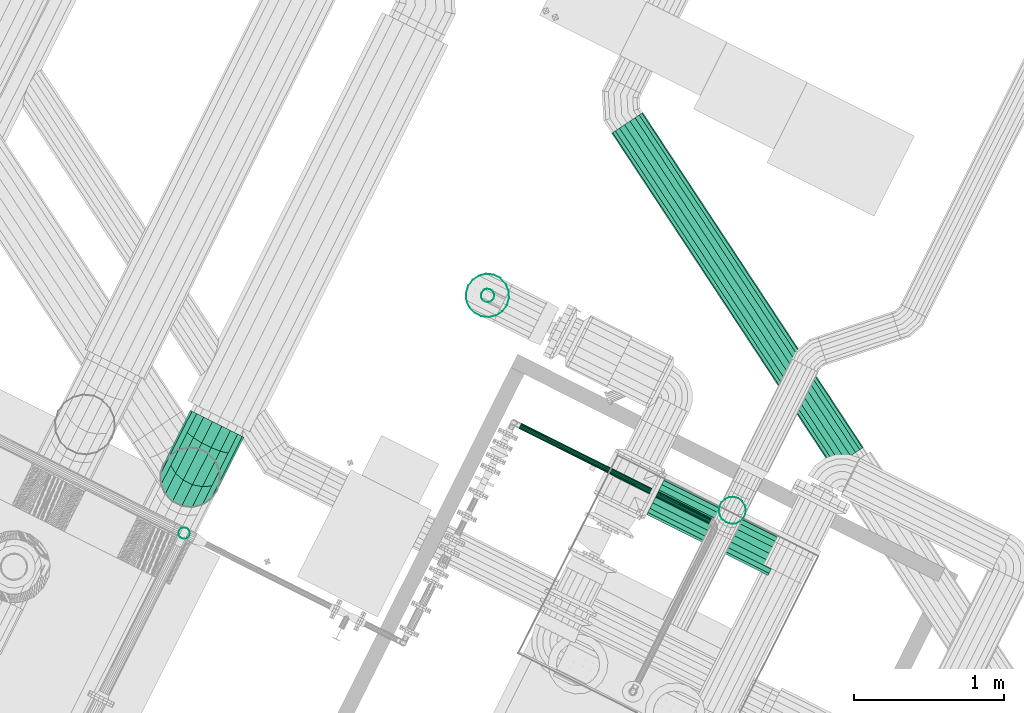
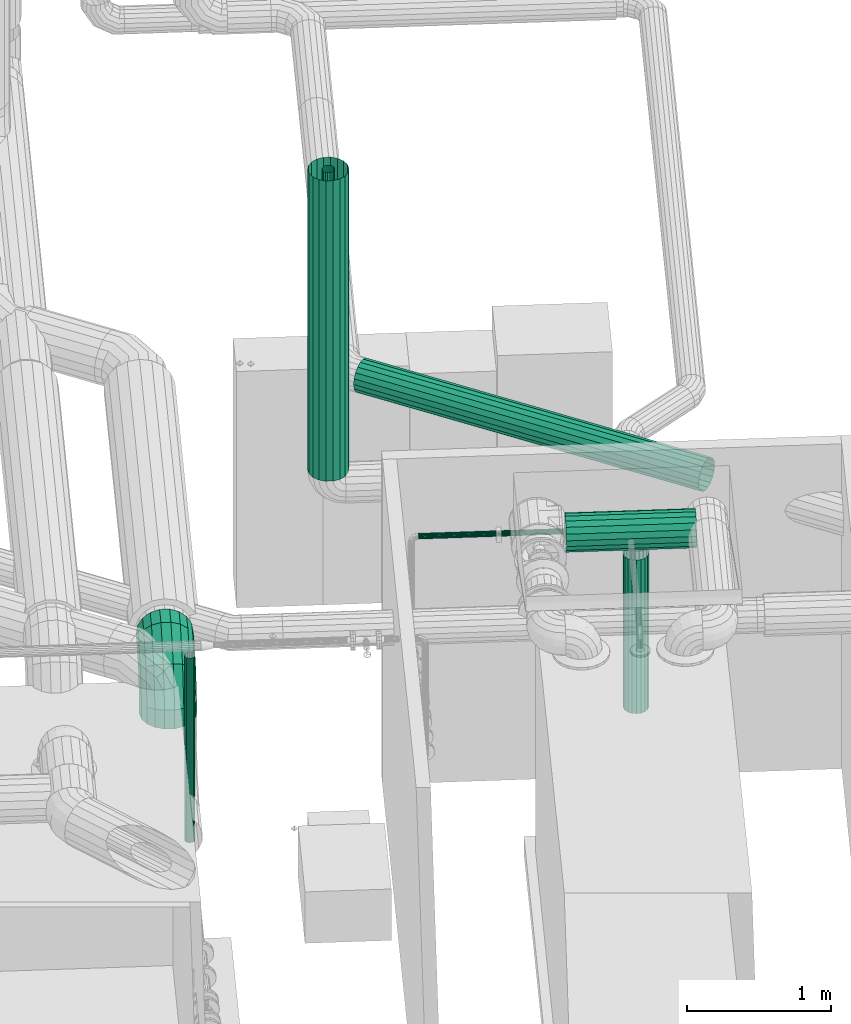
# One storey, part 23 of 206: 6 flow segments, 1 flow fitting.
"""IFC2X3 building model written with IfcOpenShell, lengths in metres."""

import ifcopenshell
import ifcopenshell.guid

model = None  # the IFC model being written
_history = None  # IfcOwnerHistory: only IFC2X3 demands one
_inside = {}  # id of a spatial element -> (the spatial element, [elements in it])
_under = {}  # id of a project, library or spatial element -> (it, [spatial elements below it])
_declared = {}  # id of a project -> (the project, [libraries it declares])
_typed = {}  # id of a type object -> (the type object, [elements of that type])
_made_of = {}  # id of a material, layer set ... -> (it, [elements and type objects made of it])


def new_model(schema):
    """Start an empty IFC model of exactly this schema.

    Asked for "IFC4X3", IfcOpenShell would pick the latest addendum, in which some entities
    have other attributes; the version numbers below select the first issue.
    IFC2X3 requires an IfcOwnerHistory on every rooted entity: one is made here for all.
    """
    global model, _history
    if schema == "IFC4X3":
        model = ifcopenshell.file(schema_version=(4, 3, 0, 0))
    else:
        model = ifcopenshell.file(schema=schema)
    _inside.clear()
    _under.clear()
    _declared.clear()
    _typed.clear()
    _made_of.clear()
    _history = None
    if model.schema == "IFC2X3":
        org = make("IfcOrganization", Name="unknown")
        user = make(
            "IfcPersonAndOrganization",
            ThePerson=make("IfcPerson", FamilyName="unknown"),
            TheOrganization=org,
        )
        app = make(
            "IfcApplication",
            ApplicationDeveloper=org,
            Version="unknown",
            ApplicationFullName="unknown",
            ApplicationIdentifier="unknown",
        )
        _history = make(
            "IfcOwnerHistory",
            OwningUser=user,
            OwningApplication=app,
            ChangeAction="ADDED",
            CreationDate=0,
        )
    return model


def make(cls, **values):
    """One entity of the class cls with the attributes given. An attribute that is None is left unset."""
    return model.create_entity(
        cls, **{name: value for name, value in values.items() if value is not None}
    )


def rooted(cls, **values):
    """An entity with a GlobalId (a new one), such as an element, a storey or a relation."""
    return make(cls, GlobalId=ifcopenshell.guid.new(), OwnerHistory=_history, **values)


def si_unit(unit_type, name, prefix=None):
    """IfcSIUnit, for example si_unit("LENGTHUNIT", "METRE", prefix="MILLI")."""
    return make("IfcSIUnit", UnitType=unit_type, Prefix=prefix, Name=name)


def derived_unit(unit_type, elements):
    """IfcDerivedUnit: a product of units, each with its exponent."""
    return make(
        "IfcDerivedUnit",
        Elements=[
            make("IfcDerivedUnitElement", Unit=unit, Exponent=power)
            for unit, power in elements
        ],
        UnitType=unit_type,
    )


def assignment(units):
    """IfcUnitAssignment: the units of a project."""
    return None if units is None else make("IfcUnitAssignment", Units=units)


def point(xyz):
    """IfcCartesianPoint."""
    return None if xyz is None else make("IfcCartesianPoint", Coordinates=xyz)


def direction(xyz):
    """IfcDirection."""
    return None if xyz is None else make("IfcDirection", DirectionRatios=xyz)


def frame(location, z_axis=None, x_axis=None):
    """IfcAxis2Placement3D, a coordinate frame: its origin and axes. An axis left out is left unset."""
    return make(
        "IfcAxis2Placement3D",
        Location=point(location),
        Axis=direction(z_axis),
        RefDirection=direction(x_axis),
    )


def origin():
    """The frame at (0, 0, 0) with its axes left unset."""
    return frame((0.0, 0.0, 0.0))


def place(relative_to, where):
    """IfcLocalPlacement: puts the frame where relative to a parent placement (None: the world)."""
    return make(
        "IfcLocalPlacement", PlacementRelTo=relative_to, RelativePlacement=where
    )


def context(
    kind, dimensions, precision=None, world=None, true_north=None, identifier=None
):
    """IfcGeometricRepresentationContext, for example the 3D "Model" context."""
    return make(
        "IfcGeometricRepresentationContext",
        ContextIdentifier=identifier,
        ContextType=kind,
        CoordinateSpaceDimension=dimensions,
        Precision=precision,
        WorldCoordinateSystem=world,
        TrueNorth=true_north,
    )


def subcontext(parent, identifier, kind, view, scale=None):
    """IfcGeometricRepresentationSubContext, for example "Body" below "Model"."""
    return make(
        "IfcGeometricRepresentationSubContext",
        ContextIdentifier=identifier,
        ContextType=kind,
        ParentContext=parent,
        TargetScale=scale,
        TargetView=view,
    )


def project(units=None, contexts=None):
    """IfcProject with its units and contexts."""
    return rooted(
        "IfcProject",
        Name="project",
        RepresentationContexts=contexts,
        UnitsInContext=assignment(units),
    )


def spatial(cls, under=None, at=None, **own):
    """A site, building, storey or space (cls), placed at a placement, below another one or the project."""
    s = rooted(cls, ObjectPlacement=at, **own)
    if under is not None:
        _under.setdefault(under.id(), (under, []))[1].append(s)
    return s


def faces_of(points, faces, orient=None, outer=None):
    """IfcFace entities. A face is a list of loops; a loop is a list of indices into points, from 0.

    orient and outer hold one flag for each loop. By default every Orientation is true, the
    first loop of a face is its IfcFaceOuterBound and the others are IfcFaceBound.
    """
    made = []
    for i, loops in enumerate(faces):
        bounds = []
        for j, loop in enumerate(loops):
            is_outer = j == 0 if outer is None else outer[i][j]
            bounds.append(
                make(
                    "IfcFaceOuterBound" if is_outer else "IfcFaceBound",
                    Bound=make("IfcPolyLoop", Polygon=[points[k] for k in loop]),
                    Orientation=True if orient is None else orient[i][j],
                )
            )
        made.append(make("IfcFace", Bounds=bounds))
    return made


def face_set(faces, orient=None, outer=None):
    """The faces of one IfcConnectedFaceSet. surface_model builds it on its shared points."""
    return ("IfcConnectedFaceSet", faces, orient, outer)


def surface_model(cls, points, shells):
    """IfcFaceBasedSurfaceModel or IfcShellBasedSurfaceModel (cls): surfaces that need not close."""
    shared = [point(p) for p in points]
    made = [make(c, CfsFaces=faces_of(shared, fs, o, b)) for c, fs, o, b in shells]
    if cls == "IfcFaceBasedSurfaceModel":
        return make(cls, FbsmFaces=made)
    return make(cls, SbsmBoundary=made)


def shape(context_of_items, identifier, shape_type, items):
    """IfcShapeRepresentation: the items that make up one representation, for example the "Body"."""
    return make(
        "IfcShapeRepresentation",
        ContextOfItems=context_of_items,
        RepresentationIdentifier=identifier,
        RepresentationType=shape_type,
        Items=items,
    )


def source(mapping_origin, context_of_items, identifier, shape_type, items):
    """IfcRepresentationMap: a shape defined once, which mapped items show again and again."""
    return make(
        "IfcRepresentationMap",
        MappingOrigin=mapping_origin,
        MappedRepresentation=shape(context_of_items, identifier, shape_type, items),
    )


def transform(
    local_origin,
    x_axis=None,
    y_axis=None,
    z_axis=None,
    scale=None,
    scale2=None,
    scale3=None,
    uniform=True,
):
    """IfcCartesianTransformationOperator3D, or its non-uniform kind. x_axis, y_axis, z_axis: its Axis1, 2, 3."""
    if uniform:
        return make(
            "IfcCartesianTransformationOperator3D",
            Axis1=direction(x_axis),
            Axis2=direction(y_axis),
            LocalOrigin=point(local_origin),
            Scale=scale,
            Axis3=direction(z_axis),
        )
    return make(
        "IfcCartesianTransformationOperator3DnonUniform",
        Axis1=direction(x_axis),
        Axis2=direction(y_axis),
        LocalOrigin=point(local_origin),
        Scale=scale,
        Axis3=direction(z_axis),
        Scale2=scale2,
        Scale3=scale3,
    )


def mapped(mapping_source, mapping_target):
    """IfcMappedItem: shows the shape of a source again, moved by a transform."""
    return make(
        "IfcMappedItem", MappingSource=mapping_source, MappingTarget=mapping_target
    )


def material(Name=None, Category=None):
    """IfcMaterial."""
    return make("IfcMaterial", Name=Name, Category=Category)


def made_of(thing, what):
    """Note that an element or type object is made of a material, layer set ...; save() writes the relation."""
    if what is not None:
        _made_of.setdefault(what.id(), (what, []))[1].append(thing)
    return thing


def type_object(cls, material=None, **own):
    """A type object (cls), such as IfcWallType, which elements share."""
    return made_of(rooted(cls, **own), material)


def type_shapes(of_type, sources):
    """Give a type object the sources (RepresentationMaps) that its elements show as mapped items."""
    of_type.RepresentationMaps = sources


def element(
    cls,
    number,
    at=None,
    inside=None,
    cuts=None,
    type_object=None,
    material=None,
    context=None,
    identifier="Body",
    shape_type=None,
    held_by="IfcProductDefinitionShape",
    body=None,
    shapes=None,
    **own,
):
    """One element of the class cls, such as IfcWall. Its Tag is "e" and its number.

    at: its placement. inside: the storey or other place that contains it. cuts: it is an
    opening in that element (IfcRelVoidsElement). A single representation is given by context,
    identifier, shape_type and body (its items); several are given by shapes. held_by: the class
    of the entity that holds the representations. save() writes the other relations.
    """
    e = rooted(cls, Tag="e%d" % number, ObjectPlacement=at, **own)
    if body is not None:
        shapes = [shape(context, identifier, shape_type, body)]
    if shapes is not None:
        e.Representation = make(held_by, Representations=shapes)
    if inside is not None:
        _inside.setdefault(inside.id(), (inside, []))[1].append(e)
    if cuts is not None:
        rooted(
            "IfcRelVoidsElement", RelatingBuildingElement=cuts, RelatedOpeningElement=e
        )
    if type_object is not None:
        _typed.setdefault(type_object.id(), (type_object, []))[1].append(e)
    return made_of(e, material)


def aggregate(whole, parts):
    """IfcRelAggregates: a whole, such as a stair, and the parts it consists of."""
    return rooted("IfcRelAggregates", RelatingObject=whole, RelatedObjects=parts)


def save(model, path):
    """Write the relations noted so far, then the file.

    IfcRelAggregates (storeys below a building ...), IfcRelContainedInSpatialStructure (elements
    in a storey), IfcRelDefinesByType, IfcRelAssociatesMaterial and IfcRelDeclares: one each for
    every whole, place, type object, material and project.
    """
    for whole, parts in _under.values():
        aggregate(whole, parts)
    for where, things in _inside.values():
        rooted(
            "IfcRelContainedInSpatialStructure",
            RelatedElements=things,
            RelatingStructure=where,
        )
    for kind, things in _typed.values():
        rooted("IfcRelDefinesByType", RelatedObjects=things, RelatingType=kind)
    for what, things in _made_of.values():
        rooted("IfcRelAssociatesMaterial", RelatedObjects=things, RelatingMaterial=what)
    for by, libraries in _declared.values():
        rooted("IfcRelDeclares", RelatingContext=by, RelatedDefinitions=libraries)
    model.write(path)


model = new_model("IFC2X3")

# Units and contexts
model_context = context("Model", 3, precision=5.2338327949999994e-05, world=origin(), true_north=direction((0.0, 1.0)))
body_context = subcontext(model_context, "Body", "Model", "MODEL_VIEW")
ifc_project = project(units=[si_unit("LENGTHUNIT", "METRE"), si_unit("AREAUNIT", "SQUARE_METRE"), si_unit("VOLUMEUNIT", "CUBIC_METRE"), si_unit("MASSUNIT", "GRAM", prefix="KILO"), si_unit("PLANEANGLEUNIT", "RADIAN"), derived_unit("THERMALTRANSMITTANCEUNIT", [(si_unit("MASSUNIT", "GRAM", prefix="KILO"), 1), (si_unit("THERMODYNAMICTEMPERATUREUNIT", "KELVIN"), -1), (si_unit("TIMEUNIT", "SECOND"), -3)])], contexts=[model_context])

# Site, building, storey
site_placement = place(None, frame((0.0, 0.0, 0.0), z_axis=(0.0, 0.0, 1.0), x_axis=(0.8939966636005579, -0.4480736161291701, 0.0)))
site = spatial("IfcSite", under=ifc_project, at=site_placement, Name="Default", CompositionType="ELEMENT")
building_placement = place(site_placement, origin())
building = spatial("IfcBuilding", under=site, at=building_placement, CompositionType="ELEMENT")
storey_placement = place(building_placement, origin())
storey = spatial("IfcBuildingStorey", under=building, at=storey_placement, Name="Erdgeschoss", CompositionType="ELEMENT", Elevation=0.0)

# Flow segment
ifc_material_1 = material(Name="IfcSurfaceStyle #251447")
distribution_element_type_1 = type_object("IfcDistributionElementType", Name="Wickelfalzrohr 294280:Wickelfalzrohr 294280", material=ifc_material_1)
shared_shape_1 = source(origin(), body_context, "Body", "SurfaceModel", [
    surface_model("IfcFaceBasedSurfaceModel", [(31.11802749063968, 10.405147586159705, 2.1999999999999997), (31.121796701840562, 10.41167605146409, 2.242752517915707), (28.803990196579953, 11.749862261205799, 2.242752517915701), (28.80022098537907, 11.743333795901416, 2.1999999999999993), (31.132649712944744, 10.430474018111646, 2.2803484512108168), (28.814843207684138, 11.768660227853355, 2.280348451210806), (31.149277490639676, 10.45927417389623, 2.308253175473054), (28.831470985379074, 11.797460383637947, 2.3082531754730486), (31.169674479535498, 10.494602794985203, 2.3231009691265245), (28.85186797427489, 11.832789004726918, 2.323100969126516), (31.191380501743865, 10.532198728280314, 2.3231009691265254), (28.873573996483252, 11.870384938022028, 2.323100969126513), (31.21177749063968, 10.567527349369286, 2.308253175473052), (28.893970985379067, 11.905713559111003, 2.308253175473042), (31.228405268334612, 10.596327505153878, 2.280348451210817), (28.910598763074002, 11.93451371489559, 2.2803484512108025), (31.239258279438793, 10.615125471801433, 2.2427525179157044), (28.921451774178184, 11.953311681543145, 2.242752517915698), (31.243027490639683, 10.621653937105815, 2.1999999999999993), (28.925220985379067, 11.959840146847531, 2.1999999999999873), (31.239258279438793, 10.615125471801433, 2.1572474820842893), (28.921451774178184, 11.953311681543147, 2.157247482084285), (31.22840526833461, 10.596327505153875, 2.1196515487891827), (28.910598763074, 11.93451371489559, 2.1196515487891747), (31.211777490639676, 10.567527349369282, 2.0917468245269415), (28.893970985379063, 11.905713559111, 2.0917468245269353), (31.19138050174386, 10.532198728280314, 2.0768990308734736), (28.87357399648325, 11.870384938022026, 2.076899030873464), (31.169674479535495, 10.494602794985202, 2.076899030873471), (28.851867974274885, 11.832789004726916, 2.0768990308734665), (31.149277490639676, 10.459274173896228, 2.091746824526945), (28.831470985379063, 11.797460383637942, 2.0917468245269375), (31.13264971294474, 10.43047401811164, 2.1196515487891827), (28.814843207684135, 11.768660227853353, 2.1196515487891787), (31.12179670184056, 10.41167605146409, 2.157247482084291), (28.803990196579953, 11.7498622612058, 2.1572474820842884)], [face_set([[[0, 1, 2, 3]], [[1, 4, 5, 2]], [[4, 6, 7, 5]], [[6, 8, 9, 7]], [[8, 10, 11, 9]], [[10, 12, 13, 11]], [[12, 14, 15, 13]], [[14, 16, 17, 15]], [[16, 18, 19, 17]], [[18, 20, 21, 19]], [[20, 22, 23, 21]], [[22, 24, 25, 23]], [[24, 26, 27, 25]], [[26, 28, 29, 27]], [[28, 30, 31, 29]], [[30, 32, 33, 31]], [[32, 34, 35, 33]], [[34, 0, 3, 35]]])]),
])
type_shapes(distribution_element_type_1, [shared_shape_1])
flow_segment_1_placement = place(storey_placement, origin())
element("IfcFlowSegment", 1, at=flow_segment_1_placement, inside=storey, type_object=distribution_element_type_1, material=ifc_material_1, Name="Wickelfalzrohr", ObjectType="Wickelfalzrohr", context=body_context, shape_type="MappedRepresentation", body=[
    mapped(shared_shape_1, transform((0.0, 0.0, 0.0), scale=1.0)),
])

# Flow fitting
distribution_element_type_2 = type_object("IfcDistributionElementType", Name="Segmentbogen 4 teilig 294679:Segmentbogen 4 teilig 294679", material=ifc_material_1)
shared_shape_2 = source(origin(), body_context, "Body", "SurfaceModel", [
    surface_model("IfcFaceBasedSurfaceModel", [(27.51550898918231, 8.428208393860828, 1.7999999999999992), (27.503447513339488, 8.496612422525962, 1.7999999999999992), (27.503447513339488, 8.496612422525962, 1.888850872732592), (27.51550898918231, 8.42820839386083, 1.9071796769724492), (27.4687178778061, 8.556765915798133, 1.7999999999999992), (27.4687178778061, 8.556765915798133, 1.8727327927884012), (27.415508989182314, 8.601413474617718, 1.7999999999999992), (27.415508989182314, 8.601413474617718, 1.8607695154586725), (27.350238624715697, 8.62516994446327, 1.7999999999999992), (27.350238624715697, 8.62516994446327, 1.854403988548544), (27.280779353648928, 8.625169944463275, 1.7999999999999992), (27.280779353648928, 8.625169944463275, 1.854403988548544), (27.21550898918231, 8.601413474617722, 1.7999999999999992), (27.21550898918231, 8.601413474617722, 1.8607695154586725), (27.162300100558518, 8.556765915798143, 1.7999999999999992), (27.162300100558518, 8.556765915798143, 1.8727327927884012), (27.12757046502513, 8.496612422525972, 1.7999999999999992), (27.12757046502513, 8.496612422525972, 1.8888508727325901), (27.115508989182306, 8.428208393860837, 1.7999999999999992), (27.115508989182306, 8.42820839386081, 1.9071796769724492), (27.12757046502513, 8.359804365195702, 1.7999999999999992), (27.12757046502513, 8.359804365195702, 1.9255084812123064), (27.162300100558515, 8.299650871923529, 1.7999999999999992), (27.162300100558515, 8.299650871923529, 1.941626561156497), (27.215508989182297, 8.255003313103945, 1.7999999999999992), (27.215508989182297, 8.255003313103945, 1.9535898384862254), (27.280779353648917, 8.231246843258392, 1.7999999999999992), (27.280779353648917, 8.231246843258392, 1.959955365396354), (27.350238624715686, 8.23124684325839, 1.7999999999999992), (27.350238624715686, 8.23124684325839, 1.959955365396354), (27.4155089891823, 8.255003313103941, 1.7999999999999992), (27.4155089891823, 8.255003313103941, 1.9535898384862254), (27.468717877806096, 8.29965087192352, 1.7999999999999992), (27.468717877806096, 8.29965087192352, 1.941626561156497), (27.503447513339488, 8.359804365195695, 1.7999999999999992), (27.503447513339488, 8.359804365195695, 1.9255084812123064), (27.503447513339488, 8.585463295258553, 2.042745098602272), (27.51550898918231, 8.535388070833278, 2.09282032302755), (27.468717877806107, 8.629498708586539, 1.9987096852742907), (27.415508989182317, 8.662182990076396, 1.9660254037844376), (27.350238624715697, 8.679573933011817, 1.948634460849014), (27.28077935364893, 8.679573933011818, 1.9486344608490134), (27.21550898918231, 8.662182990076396, 1.9660254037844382), (27.16230010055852, 8.629498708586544, 1.9987096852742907), (27.127570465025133, 8.58546329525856, 2.0427450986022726), (27.115508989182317, 8.535388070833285, 2.0928203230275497), (27.127570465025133, 8.485312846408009, 2.142895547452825), (27.162300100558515, 8.441277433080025, 2.18693096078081), (27.215508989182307, 8.40859315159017, 2.219615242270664), (27.280779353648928, 8.391202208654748, 2.237006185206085), (27.350238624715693, 8.391202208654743, 2.237006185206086), (27.415508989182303, 8.408593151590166, 2.219615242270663), (27.468717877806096, 8.441277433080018, 2.18693096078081), (27.503447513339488, 8.485312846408, 2.1428955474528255), (27.50344751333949, 8.739357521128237, 2.131595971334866), (27.51550898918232, 8.72102871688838, 2.199999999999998), (27.468717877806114, 8.755475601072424, 2.0714424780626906), (27.415508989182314, 8.767438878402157, 2.0267949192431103), (27.3502386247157, 8.773804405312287, 2.003038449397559), (27.28077935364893, 8.773804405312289, 2.0030384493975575), (27.215508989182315, 8.76743887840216, 2.026794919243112), (27.16230010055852, 8.755475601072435, 2.071442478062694), (27.12757046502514, 8.739357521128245, 2.131595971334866), (27.115508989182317, 8.721028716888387, 2.1999999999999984), (27.127570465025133, 8.70269991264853, 2.268404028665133), (27.16230010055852, 8.686581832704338, 2.3285575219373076), (27.215508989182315, 8.67461855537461, 2.3732050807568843), (27.28077935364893, 8.668253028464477, 2.3969615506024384), (27.350238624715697, 8.668253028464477, 2.396961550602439), (27.415508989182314, 8.674618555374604, 2.373205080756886), (27.468717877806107, 8.68658183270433, 2.3285575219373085), (27.50344751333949, 8.702699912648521, 2.2684040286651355), (27.5034475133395, 8.828208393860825, 2.131595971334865), (27.515508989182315, 8.828208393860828, 2.2), (27.468717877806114, 8.828208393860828, 2.0714424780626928), (27.415508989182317, 8.828208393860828, 2.0267949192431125), (27.3502386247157, 8.828208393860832, 2.003038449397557), (27.280779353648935, 8.828208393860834, 2.0030384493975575), (27.215508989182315, 8.828208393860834, 2.0267949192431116), (27.16230010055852, 8.828208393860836, 2.071442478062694), (27.127570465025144, 8.828208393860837, 2.1315959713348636), (27.11550898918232, 8.828208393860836, 2.1999999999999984), (27.127570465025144, 8.828208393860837, 2.2684040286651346), (27.16230010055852, 8.828208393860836, 2.3285575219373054), (27.215508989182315, 8.828208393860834, 2.3732050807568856), (27.280779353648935, 8.828208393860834, 2.396961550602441), (27.3502386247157, 8.828208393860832, 2.3969615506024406), (27.415508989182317, 8.828208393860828, 2.3732050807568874), (27.468717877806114, 8.828208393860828, 2.3285575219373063), (27.5034475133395, 8.828208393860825, 2.268404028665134)], [face_set([[[0, 1, 2, 3]], [[1, 4, 5, 2]], [[4, 6, 7, 5]], [[6, 8, 9, 7]], [[8, 10, 11, 9]], [[10, 12, 13, 11]], [[12, 14, 15, 13]], [[14, 16, 17, 15]], [[16, 18, 19, 17]], [[18, 20, 21, 19]], [[20, 22, 23, 21]], [[22, 24, 25, 23]], [[24, 26, 27, 25]], [[26, 28, 29, 27]], [[28, 30, 31, 29]], [[30, 32, 33, 31]], [[32, 34, 35, 33]], [[34, 0, 3, 35]], [[3, 2, 36, 37]], [[2, 5, 38, 36]], [[5, 7, 39, 38]], [[7, 9, 40, 39]], [[9, 11, 41, 40]], [[11, 13, 42, 41]], [[13, 15, 43, 42]], [[15, 17, 44, 43]], [[17, 19, 45, 44]], [[19, 21, 46, 45]], [[21, 23, 47, 46]], [[23, 25, 48, 47]], [[25, 27, 49, 48]], [[27, 29, 50, 49]], [[29, 31, 51, 50]], [[31, 33, 52, 51]], [[33, 35, 53, 52]], [[35, 3, 37, 53]], [[37, 36, 54, 55]], [[36, 38, 56, 54]], [[38, 39, 57, 56]], [[39, 40, 58, 57]], [[40, 41, 59, 58]], [[41, 42, 60, 59]], [[42, 43, 61, 60]], [[43, 44, 62, 61]], [[44, 45, 63, 62]], [[45, 46, 64, 63]], [[46, 47, 65, 64]], [[47, 48, 66, 65]], [[48, 49, 67, 66]], [[49, 50, 68, 67]], [[50, 51, 69, 68]], [[51, 52, 70, 69]], [[52, 53, 71, 70]], [[53, 37, 55, 71]], [[55, 54, 72, 73]], [[54, 56, 74, 72]], [[56, 57, 75, 74]], [[57, 58, 76, 75]], [[58, 59, 77, 76]], [[59, 60, 78, 77]], [[60, 61, 79, 78]], [[61, 62, 80, 79]], [[62, 63, 81, 80]], [[63, 64, 82, 81]], [[64, 65, 83, 82]], [[65, 66, 84, 83]], [[66, 67, 85, 84]], [[67, 68, 86, 85]], [[68, 69, 87, 86]], [[69, 70, 88, 87]], [[70, 71, 89, 88]], [[71, 55, 73, 89]]])]),
])
type_shapes(distribution_element_type_2, [shared_shape_2])
flow_fitting_placement = place(storey_placement, origin())
element("IfcFlowFitting", 2, at=flow_fitting_placement, inside=storey, type_object=distribution_element_type_2, material=ifc_material_1, Name="Segmentbogen 4 teilig", ObjectType="Segmentbogen 4 teilig", context=body_context, shape_type="MappedRepresentation", body=[
    mapped(shared_shape_2, transform((0.0, 0.0, 0.0), scale=1.0)),
])

# Flow segments
distribution_element_type_3 = type_object("IfcDistributionElementType", Name="Wickelfalzrohr 328855:Wickelfalzrohr 328855", material=ifc_material_1)
shared_shape_3 = source(origin(), body_context, "Body", "SurfaceModel", [
    surface_model("IfcFaceBasedSurfaceModel", [(30.5720577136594, 9.808208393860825, 2.02), (30.561367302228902, 9.837580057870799, 2.02), (30.561367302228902, 9.837580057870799, 0.7200000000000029), (30.5720577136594, 9.808208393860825, 0.72), (30.561367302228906, 9.868836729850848, 2.02), (30.561367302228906, 9.868836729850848, 0.72), (30.572057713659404, 9.898208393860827, 2.02), (30.572057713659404, 9.898208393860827, 0.72), (30.592149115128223, 9.922152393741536, 2.02), (30.592149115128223, 9.922152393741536, 0.72), (30.619218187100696, 9.937780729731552, 2.02), (30.619218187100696, 9.937780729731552, 0.72), (30.650000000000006, 9.943208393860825, 2.02), (30.650000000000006, 9.943208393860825, 0.72), (30.68078181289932, 9.937780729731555, 2.02), (30.68078181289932, 9.937780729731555, 0.72), (30.707850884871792, 9.922152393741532, 2.02), (30.707850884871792, 9.922152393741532, 0.72), (30.727942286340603, 9.898208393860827, 2.02), (30.727942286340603, 9.898208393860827, 0.72), (30.738632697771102, 9.86883672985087, 2.02), (30.73863269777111, 9.86883672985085, 0.72), (30.738632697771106, 9.837580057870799, 2.02), (30.738632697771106, 9.837580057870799, 0.72), (30.727942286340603, 9.808208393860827, 2.02), (30.727942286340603, 9.808208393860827, 0.72), (30.707850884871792, 9.784264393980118, 2.02), (30.707850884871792, 9.784264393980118, 0.72), (30.680781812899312, 9.768636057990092, 2.02), (30.680781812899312, 9.768636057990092, 0.72), (30.650000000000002, 9.763208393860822, 2.02), (30.650000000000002, 9.763208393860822, 0.72), (30.6192181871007, 9.768636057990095, 2.02), (30.6192181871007, 9.768636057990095, 0.72), (30.592149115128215, 9.784264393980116, 2.02), (30.592149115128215, 9.784264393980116, 0.72)], [face_set([[[0, 1, 2, 3]], [[1, 4, 5, 2]], [[4, 6, 7, 5]], [[6, 8, 9, 7]], [[8, 10, 11, 9]], [[10, 12, 13, 11]], [[12, 14, 15, 13]], [[14, 16, 17, 15]], [[16, 18, 19, 17]], [[18, 20, 21, 19]], [[20, 22, 23, 21]], [[22, 24, 25, 23]], [[24, 26, 27, 25]], [[26, 28, 29, 27]], [[28, 30, 31, 29]], [[30, 32, 33, 31]], [[32, 34, 35, 33]], [[34, 0, 3, 35]]])]),
])
type_shapes(distribution_element_type_3, [shared_shape_3])
flow_segment_2_placement = place(storey_placement, origin())
element("IfcFlowSegment", 3, at=flow_segment_2_placement, inside=storey, type_object=distribution_element_type_3, material=ifc_material_1, Name="Wickelfalzrohr", ObjectType="Wickelfalzrohr", context=body_context, shape_type="MappedRepresentation", body=[
    mapped(shared_shape_3, transform((0.0, 0.0, 0.0), scale=1.0)),
])
ifc_material_2 = material(Name="IfcSurfaceStyle #9317")
distribution_element_type_4 = type_object("IfcDistributionElementType", Name="Stahlrohr nach DIN 2448 332229:Stahlrohr nach DIN 2448 332229", material=ifc_material_2)
shared_shape_4 = source(origin(), body_context, "Body", "SurfaceModel", [
    surface_model("IfcFaceBasedSurfaceModel", [(30.150127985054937, 9.70741948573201, 2.3520499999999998), (30.150127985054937, 9.694405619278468, 2.3497553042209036), (31.05687201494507, 9.694405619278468, 2.3497553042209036), (31.05687201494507, 9.70741948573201, 2.3520499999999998), (30.150127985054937, 9.68296141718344, 2.3431479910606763), (31.05687201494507, 9.682961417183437, 2.3431479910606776), (30.150127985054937, 9.67446721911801, 2.3330250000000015), (31.05687201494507, 9.67446721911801, 2.3330250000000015), (30.150127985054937, 9.669947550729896, 2.320607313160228), (31.05687201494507, 9.669947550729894, 2.3206073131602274), (30.150127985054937, 9.669947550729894, 2.307392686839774), (31.05687201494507, 9.669947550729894, 2.307392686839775), (30.150127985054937, 9.67446721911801, 2.294975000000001), (31.05687201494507, 9.67446721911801, 2.294975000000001), (30.150127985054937, 9.68296141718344, 2.284852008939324), (31.05687201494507, 9.682961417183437, 2.2848520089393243), (30.150127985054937, 9.694405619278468, 2.278244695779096), (31.05687201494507, 9.694405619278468, 2.278244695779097), (30.150127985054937, 9.70741948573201, 2.275949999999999), (31.05687201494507, 9.707419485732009, 2.2759500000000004), (30.150127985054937, 9.720433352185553, 2.278244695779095), (31.05687201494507, 9.720433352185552, 2.278244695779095), (30.150127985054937, 9.731877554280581, 2.284852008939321), (31.05687201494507, 9.731877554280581, 2.284852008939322), (30.150127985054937, 9.74037175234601, 2.294974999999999), (31.05687201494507, 9.74037175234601, 2.294974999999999), (30.150127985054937, 9.744891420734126, 2.307392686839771), (31.05687201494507, 9.744891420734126, 2.307392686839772), (30.150127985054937, 9.744891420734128, 2.3206073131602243), (31.05687201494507, 9.744891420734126, 2.3206073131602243), (30.150127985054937, 9.74037175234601, 2.333024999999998), (31.05687201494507, 9.74037175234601, 2.333024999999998), (30.150127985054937, 9.731877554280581, 2.3431479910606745), (31.05687201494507, 9.731877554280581, 2.3431479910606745), (30.150127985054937, 9.720433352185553, 2.3497553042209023), (31.05687201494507, 9.720433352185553, 2.3497553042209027), (30.150127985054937, 9.707419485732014, 2.4520499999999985), (30.150127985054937, 9.660203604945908, 2.4437245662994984), (31.05687201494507, 9.660203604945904, 2.4437245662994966), (31.05687201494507, 9.707419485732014, 2.4520499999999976), (30.150127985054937, 9.618682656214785, 2.4197524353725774), (31.05687201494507, 9.618682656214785, 2.4197524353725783), (30.150127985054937, 9.587864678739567, 2.3830250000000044), (31.05687201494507, 9.587864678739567, 2.3830250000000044), (30.150127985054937, 9.571466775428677, 2.337972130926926), (31.05687201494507, 9.571466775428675, 2.337972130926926), (30.150127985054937, 9.571466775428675, 2.2900278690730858), (31.05687201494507, 9.571466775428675, 2.290027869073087), (30.150127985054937, 9.587864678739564, 2.2449750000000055), (31.05687201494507, 9.587864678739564, 2.244975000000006), (30.150127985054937, 9.618682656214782, 2.2082475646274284), (31.05687201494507, 9.618682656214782, 2.2082475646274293), (30.150127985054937, 9.6602036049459, 2.1842754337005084), (31.05687201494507, 9.6602036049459, 2.1842754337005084), (30.150127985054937, 9.707419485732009, 2.1759500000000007), (31.05687201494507, 9.707419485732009, 2.1759500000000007), (30.150127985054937, 9.754635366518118, 2.184275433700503), (31.05687201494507, 9.754635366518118, 2.184275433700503), (30.150127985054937, 9.796156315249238, 2.208247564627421), (31.05687201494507, 9.796156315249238, 2.2082475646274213), (30.150127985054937, 9.826974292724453, 2.244974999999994), (31.05687201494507, 9.826974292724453, 2.244974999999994), (30.150127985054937, 9.843372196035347, 2.2900278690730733), (31.05687201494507, 9.843372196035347, 2.290027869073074), (30.150127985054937, 9.843372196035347, 2.337972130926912), (31.05687201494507, 9.843372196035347, 2.337972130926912), (30.150127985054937, 9.826974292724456, 2.383024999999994), (31.05687201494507, 9.826974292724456, 2.3830249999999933), (30.150127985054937, 9.796156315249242, 2.4197524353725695), (31.05687201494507, 9.796156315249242, 2.4197524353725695), (30.150127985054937, 9.754635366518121, 2.443724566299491), (31.05687201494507, 9.754635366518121, 2.443724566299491)], [face_set([[[0, 1, 2, 3]], [[1, 4, 5, 2]], [[4, 6, 7, 5]], [[6, 8, 9, 7]], [[8, 10, 11, 9]], [[10, 12, 13, 11]], [[12, 14, 15, 13]], [[14, 16, 17, 15]], [[16, 18, 19, 17]], [[18, 20, 21, 19]], [[20, 22, 23, 21]], [[22, 24, 25, 23]], [[24, 26, 27, 25]], [[26, 28, 29, 27]], [[28, 30, 31, 29]], [[30, 32, 33, 31]], [[32, 34, 35, 33]], [[34, 0, 3, 35]], [[36, 37, 38, 39]], [[37, 40, 41, 38]], [[40, 42, 43, 41]], [[42, 44, 45, 43]], [[44, 46, 47, 45]], [[46, 48, 49, 47]], [[48, 50, 51, 49]], [[50, 52, 53, 51]], [[52, 54, 55, 53]], [[54, 56, 57, 55]], [[56, 58, 59, 57]], [[58, 60, 61, 59]], [[60, 62, 63, 61]], [[62, 64, 65, 63]], [[64, 66, 67, 65]], [[66, 68, 69, 67]], [[68, 70, 71, 69]], [[70, 36, 39, 71]]])]),
])
type_shapes(distribution_element_type_4, [shared_shape_4])
flow_segment_3_placement = place(storey_placement, origin())
element("IfcFlowSegment", 4, at=flow_segment_3_placement, inside=storey, type_object=distribution_element_type_4, material=ifc_material_2, Name="Stahlrohr nach DIN 2448", ObjectType="Stahlrohr nach DIN 2448", context=body_context, shape_type="MappedRepresentation", body=[
    mapped(shared_shape_4, transform((0.0, 0.0, 0.0), scale=1.0)),
])
ifc_material_3 = material(Name="IfcSurfaceStyle #1741")
distribution_element_type_5 = type_object("IfcDistributionElementType", Name="Stahlrohr nach DIN 2448 347991:Stahlrohr nach DIN 2448 347991", material=ifc_material_3)
shared_shape_5 = source(origin(), body_context, "Body", "SurfaceModel", [
    surface_model("IfcFaceBasedSurfaceModel", [(28.501474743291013, 10.403208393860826, 4.970997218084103), (28.504155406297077, 10.418411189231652, 4.970997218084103), (28.504155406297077, 10.418411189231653, 2.428), (28.501474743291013, 10.403208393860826, 2.428), (28.51187406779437, 10.431780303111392, 4.970997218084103), (28.51187406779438, 10.431780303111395, 2.428), (28.523699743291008, 10.441703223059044, 4.970997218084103), (28.523699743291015, 10.441703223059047, 2.428), (28.538206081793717, 10.446983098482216, 4.970997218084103), (28.538206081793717, 10.446983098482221, 2.428), (28.553643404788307, 10.446983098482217, 4.970997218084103), (28.553643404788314, 10.446983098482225, 2.428), (28.568149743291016, 10.441703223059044, 4.970997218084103), (28.568149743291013, 10.441703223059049, 2.428), (28.57997541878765, 10.43178030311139, 4.970997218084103), (28.57997541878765, 10.431780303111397, 2.428), (28.587694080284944, 10.41841118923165, 4.970997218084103), (28.587694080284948, 10.41841118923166, 2.428), (28.590374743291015, 10.403208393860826, 4.970997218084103), (28.59037474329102, 10.403208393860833, 2.428), (28.58769408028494, 10.38800559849, 4.970997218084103), (28.58769408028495, 10.38800559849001, 2.428), (28.57997541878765, 10.37463648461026, 4.970997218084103), (28.579975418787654, 10.374636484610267, 2.428), (28.568149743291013, 10.364713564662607, 4.970997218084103), (28.568149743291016, 10.364713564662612, 2.428), (28.553643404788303, 10.359433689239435, 4.970997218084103), (28.553643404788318, 10.359433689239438, 2.428), (28.538206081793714, 10.359433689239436, 4.970997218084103), (28.538206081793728, 10.359433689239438, 2.428), (28.523699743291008, 10.36471356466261, 4.970997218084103), (28.523699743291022, 10.36471356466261, 2.428), (28.51187406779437, 10.374636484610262, 4.970997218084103), (28.511874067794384, 10.374636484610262, 2.428), (28.504155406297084, 10.388005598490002, 4.970997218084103), (28.50415540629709, 10.388005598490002, 2.428), (28.401474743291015, 10.403208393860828, 4.970997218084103), (28.410186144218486, 10.452613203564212, 4.970997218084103), (28.410186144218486, 10.452613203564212, 2.428), (28.401474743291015, 10.403208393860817, 2.428), (28.43526962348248, 10.496059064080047, 4.970997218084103), (28.435269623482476, 10.496059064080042, 2.4280000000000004), (28.47369974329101, 10.528305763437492, 4.970997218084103), (28.473699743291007, 10.528305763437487, 2.4280000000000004), (28.520841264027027, 10.545463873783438, 4.970997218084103), (28.520841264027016, 10.545463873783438, 2.4280000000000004), (28.571008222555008, 10.545463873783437, 4.970997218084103), (28.571008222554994, 10.545463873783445, 2.4280000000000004), (28.618149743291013, 10.528305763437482, 4.970997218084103), (28.618149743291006, 10.528305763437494, 2.4280000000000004), (28.656579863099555, 10.496059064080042, 4.970997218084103), (28.656579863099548, 10.496059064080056, 2.4280000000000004), (28.68166334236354, 10.452613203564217, 4.970997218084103), (28.681663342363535, 10.45261320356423, 2.428), (28.69037474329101, 10.403208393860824, 4.970997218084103), (28.690374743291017, 10.403208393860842, 2.428), (28.681663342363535, 10.353803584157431, 4.970997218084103), (28.68166334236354, 10.353803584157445, 2.428), (28.65657986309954, 10.310357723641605, 4.970997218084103), (28.656579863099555, 10.31035772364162, 2.428), (28.61814974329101, 10.278111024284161, 4.970997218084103), (28.618149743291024, 10.278111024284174, 2.428), (28.57100822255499, 10.260952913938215, 4.970997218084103), (28.571008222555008, 10.260952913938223, 2.428), (28.520841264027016, 10.260952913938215, 4.970997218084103), (28.520841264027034, 10.260952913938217, 2.428), (28.473699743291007, 10.278111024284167, 4.970997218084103), (28.473699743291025, 10.278111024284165, 2.428), (28.435269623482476, 10.31035772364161, 4.970997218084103), (28.435269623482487, 10.3103577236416, 2.428), (28.41018614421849, 10.353803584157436, 4.970997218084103), (28.410186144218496, 10.353803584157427, 2.428)], [face_set([[[0, 1, 2, 3]], [[1, 4, 5, 2]], [[4, 6, 7, 5]], [[6, 8, 9, 7]], [[8, 10, 11, 9]], [[10, 12, 13, 11]], [[12, 14, 15, 13]], [[14, 16, 17, 15]], [[16, 18, 19, 17]], [[18, 20, 21, 19]], [[20, 22, 23, 21]], [[22, 24, 25, 23]], [[24, 26, 27, 25]], [[26, 28, 29, 27]], [[28, 30, 31, 29]], [[30, 32, 33, 31]], [[32, 34, 35, 33]], [[34, 0, 3, 35]], [[36, 37, 38, 39]], [[37, 40, 41, 38]], [[40, 42, 43, 41]], [[42, 44, 45, 43]], [[44, 46, 47, 45]], [[46, 48, 49, 47]], [[48, 50, 51, 49]], [[50, 52, 53, 51]], [[52, 54, 55, 53]], [[54, 56, 57, 55]], [[56, 58, 59, 57]], [[58, 60, 61, 59]], [[60, 62, 63, 61]], [[62, 64, 65, 63]], [[64, 66, 67, 65]], [[66, 68, 69, 67]], [[68, 70, 71, 69]], [[70, 36, 39, 71]]])]),
])
type_shapes(distribution_element_type_5, [shared_shape_5])
flow_segment_4_placement = place(storey_placement, origin())
element("IfcFlowSegment", 5, at=flow_segment_4_placement, inside=storey, type_object=distribution_element_type_5, material=ifc_material_3, Name="Stahlrohr nach DIN 2448", ObjectType="Stahlrohr nach DIN 2448", context=body_context, shape_type="MappedRepresentation", body=[
    mapped(shared_shape_5, transform((0.0, 0.0, 0.0), scale=1.0)),
])
ifc_material_4 = material(Name="IfcSurfaceStyle #352577")
distribution_element_type_6 = type_object("IfcDistributionElementType", Name="Stahlrohr nach DIN 2448 605227:Stahlrohr nach DIN 2448 605227", material=ifc_material_4)
shared_shape_6 = source(origin(), body_context, "Body", "SurfaceModel", [
    surface_model("IfcFaceBasedSurfaceModel", [(27.44564208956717, 8.115212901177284, 2.5291641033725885), (27.458655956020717, 8.112918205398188, 2.5291641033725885), (27.458655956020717, 8.112918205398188, 0.9649999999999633), (27.44564208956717, 8.115212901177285, 0.9649999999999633), (27.47010015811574, 8.10631089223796, 2.5291641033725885), (27.470100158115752, 8.10631089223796, 0.9649999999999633), (27.478594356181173, 8.096187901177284, 2.5291641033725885), (27.47859435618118, 8.096187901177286, 0.9649999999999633), (27.48311402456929, 8.08377021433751, 2.5291641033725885), (27.483114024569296, 8.083770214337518, 0.9649999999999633), (27.483114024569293, 8.070555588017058, 2.5291641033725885), (27.483114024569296, 8.070555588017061, 0.9649999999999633), (27.478594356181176, 8.058137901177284, 2.5291641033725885), (27.47859435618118, 8.058137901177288, 0.9649999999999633), (27.470100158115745, 8.04801491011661, 2.5291641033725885), (27.47010015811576, 8.04801491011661, 0.9649999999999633), (27.458655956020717, 8.041407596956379, 2.5291641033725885), (27.45865595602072, 8.04140759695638, 0.9649999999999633), (27.445642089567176, 8.039112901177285, 2.5291641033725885), (27.445642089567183, 8.039112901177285, 0.9649999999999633), (27.432628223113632, 8.041407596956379, 2.5291641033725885), (27.43262822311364, 8.041407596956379, 0.9649999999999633), (27.421184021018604, 8.048014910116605, 2.5291641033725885), (27.42118402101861, 8.048014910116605, 0.9649999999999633), (27.412689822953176, 8.05813790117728, 2.5291641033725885), (27.412689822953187, 8.05813790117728, 0.9649999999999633), (27.408170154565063, 8.070555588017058, 2.5291641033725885), (27.408170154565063, 8.070555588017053, 0.9649999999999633), (27.40817015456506, 8.083770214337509, 2.5291641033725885), (27.408170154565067, 8.083770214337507, 0.9649999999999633), (27.412689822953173, 8.09618790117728, 2.5291641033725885), (27.412689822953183, 8.096187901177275, 0.9649999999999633), (27.421184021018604, 8.106310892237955, 2.5291641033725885), (27.421184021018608, 8.106310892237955, 0.9649999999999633), (27.432628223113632, 8.112918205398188, 2.5291641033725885), (27.432628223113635, 8.112918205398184, 0.9649999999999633)], [face_set([[[0, 1, 2, 3]], [[1, 4, 5, 2]], [[4, 6, 7, 5]], [[6, 8, 9, 7]], [[8, 10, 11, 9]], [[10, 12, 13, 11]], [[12, 14, 15, 13]], [[14, 16, 17, 15]], [[16, 18, 19, 17]], [[18, 20, 21, 19]], [[20, 22, 23, 21]], [[22, 24, 25, 23]], [[24, 26, 27, 25]], [[26, 28, 29, 27]], [[28, 30, 31, 29]], [[30, 32, 33, 31]], [[32, 34, 35, 33]], [[34, 0, 3, 35]]])]),
])
type_shapes(distribution_element_type_6, [shared_shape_6])
flow_segment_5_placement = place(storey_placement, origin())
element("IfcFlowSegment", 6, at=flow_segment_5_placement, inside=storey, type_object=distribution_element_type_6, material=ifc_material_4, Name="Stahlrohr nach DIN 2448", ObjectType="Stahlrohr nach DIN 2448", context=body_context, shape_type="MappedRepresentation", body=[
    mapped(shared_shape_6, transform((0.0, 0.0, 0.0), scale=1.0)),
])
distribution_element_type_7 = type_object("IfcDistributionElementType", Name="Stahlrohr nach DIN 2448 612156:Stahlrohr nach DIN 2448 612156", material=ifc_material_4)
shared_shape_7 = source(origin(), body_context, "Body", "SurfaceModel", [
    surface_model("IfcFaceBasedSurfaceModel", [(29.129818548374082, 9.701962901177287, 2.314000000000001), (29.129818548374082, 9.703241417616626, 2.306749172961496), (30.550000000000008, 9.703241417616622, 2.3067491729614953), (30.550000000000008, 9.701962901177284, 2.314), (29.129818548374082, 9.706922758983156, 2.300372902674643), (30.550000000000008, 9.70692275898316, 2.300372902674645), (29.129818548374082, 9.712562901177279, 2.295640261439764), (30.550000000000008, 9.712562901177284, 2.2956402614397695), (29.129818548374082, 9.71948155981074, 2.2931220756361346), (30.550000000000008, 9.719481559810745, 2.2931220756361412), (29.129818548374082, 9.726844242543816, 2.2931220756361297), (30.550000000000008, 9.726844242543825, 2.293122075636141), (29.129818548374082, 9.733762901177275, 2.2956402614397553), (30.550000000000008, 9.733762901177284, 2.29564026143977), (29.129818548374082, 9.739403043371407, 2.3003729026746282), (30.550000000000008, 9.739403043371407, 2.3003729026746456), (29.129818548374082, 9.743084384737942, 2.3067491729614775), (30.550000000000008, 9.743084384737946, 2.306749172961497), (29.129818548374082, 9.744362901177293, 2.313999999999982), (30.550000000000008, 9.744362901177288, 2.3140000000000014), (29.129818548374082, 9.743084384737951, 2.3212508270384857), (30.550000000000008, 9.743084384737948, 2.321250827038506), (29.129818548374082, 9.739403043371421, 2.3276270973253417), (30.550000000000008, 9.739403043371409, 2.327627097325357), (29.129818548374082, 9.733762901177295, 2.3323597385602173), (30.550000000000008, 9.73376290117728, 2.332359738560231), (29.129818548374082, 9.726844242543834, 2.334877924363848), (30.550000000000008, 9.726844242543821, 2.3348779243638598), (29.129818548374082, 9.71948155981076, 2.3348779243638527), (30.550000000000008, 9.719481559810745, 2.33487792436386), (29.129818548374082, 9.712562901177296, 2.3323597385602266), (30.550000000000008, 9.712562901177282, 2.3323597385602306), (29.129818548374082, 9.706922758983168, 2.3276270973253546), (30.550000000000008, 9.70692275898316, 2.327627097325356), (29.129818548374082, 9.70324141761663, 2.3212508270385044), (30.550000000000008, 9.703241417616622, 2.321250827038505)], [face_set([[[0, 1, 2, 3]], [[1, 4, 5, 2]], [[4, 6, 7, 5]], [[6, 8, 9, 7]], [[8, 10, 11, 9]], [[10, 12, 13, 11]], [[12, 14, 15, 13]], [[14, 16, 17, 15]], [[16, 18, 19, 17]], [[18, 20, 21, 19]], [[20, 22, 23, 21]], [[22, 24, 25, 23]], [[24, 26, 27, 25]], [[26, 28, 29, 27]], [[28, 30, 31, 29]], [[30, 32, 33, 31]], [[32, 34, 35, 33]], [[34, 0, 3, 35]]])]),
])
type_shapes(distribution_element_type_7, [shared_shape_7])
flow_segment_6_placement = place(storey_placement, origin())
element("IfcFlowSegment", 7, at=flow_segment_6_placement, inside=storey, type_object=distribution_element_type_7, material=ifc_material_4, Name="Stahlrohr nach DIN 2448", ObjectType="Stahlrohr nach DIN 2448", context=body_context, shape_type="MappedRepresentation", body=[
    mapped(shared_shape_7, transform((0.0, 0.0, 0.0), scale=1.0)),
])

save(model, "model.ifc")
